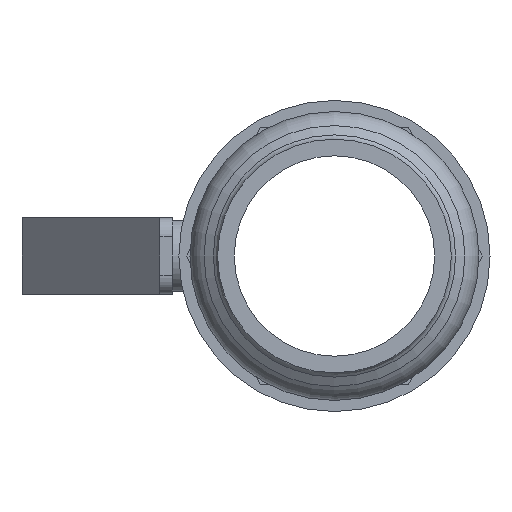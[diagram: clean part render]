
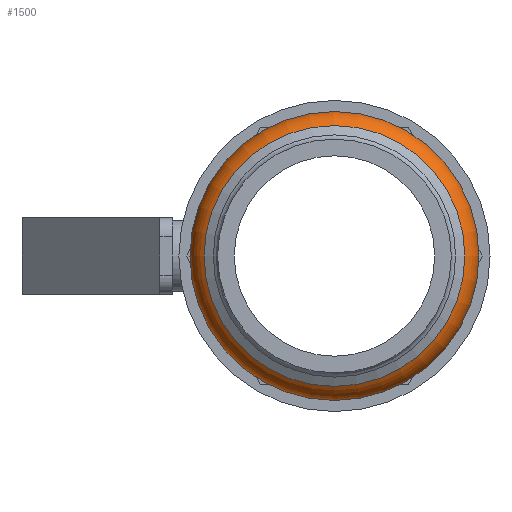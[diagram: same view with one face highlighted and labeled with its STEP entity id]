
A CAD part, left-side view. The second image highlights one B-rep face of the part: STEP entity #1500.
In plain terms, the highlighted toroidal (fillet/blend) face has major radius 19.101 mm and minor radius 4.978 mm.
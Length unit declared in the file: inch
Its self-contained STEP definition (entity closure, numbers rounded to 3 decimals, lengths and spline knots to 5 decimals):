
#322=FACE_OUTER_BOUND('',#396,.T.);
#396=EDGE_LOOP('',(#1131,#1132,#1133,#1134,#1135,#1136,#1137,#1138));
#531=CIRCLE('',#1672,0.85579);
#532=CIRCLE('',#1673,0.85579);
#533=CIRCLE('',#1674,0.85579);
#534=CIRCLE('',#1676,0.85579);
#535=CIRCLE('',#1677,0.85579);
#536=CIRCLE('',#1678,0.85579);
#537=CIRCLE('',#1679,0.196);
#647=VERTEX_POINT('',#2480);
#648=VERTEX_POINT('',#2481);
#649=VERTEX_POINT('',#2483);
#650=VERTEX_POINT('',#2488);
#651=VERTEX_POINT('',#2489);
#652=VERTEX_POINT('',#2491);
#824=EDGE_CURVE('',#647,#648,#531,.T.);
#825=EDGE_CURVE('',#649,#647,#532,.T.);
#827=EDGE_CURVE('',#648,#649,#533,.T.);
#828=EDGE_CURVE('',#650,#651,#534,.T.);
#829=EDGE_CURVE('',#652,#650,#535,.T.);
#830=EDGE_CURVE('',#651,#652,#536,.T.);
#831=EDGE_CURVE('',#651,#648,#537,.T.);
#1131=ORIENTED_EDGE('',*,*,#828,.F.);
#1132=ORIENTED_EDGE('',*,*,#829,.F.);
#1133=ORIENTED_EDGE('',*,*,#830,.F.);
#1134=ORIENTED_EDGE('',*,*,#831,.T.);
#1135=ORIENTED_EDGE('',*,*,#827,.T.);
#1136=ORIENTED_EDGE('',*,*,#825,.T.);
#1137=ORIENTED_EDGE('',*,*,#824,.T.);
#1138=ORIENTED_EDGE('',*,*,#831,.F.);
#1400=TOROIDAL_SURFACE('',#1675,0.752,0.196);
#1500=ADVANCED_FACE('',(#322),#1400,.T.);
#1672=AXIS2_PLACEMENT_3D('',#2482,#2000,#2001);
#1673=AXIS2_PLACEMENT_3D('',#2484,#2002,#2003);
#1674=AXIS2_PLACEMENT_3D('',#2486,#2005,#2006);
#1675=AXIS2_PLACEMENT_3D('',#2487,#2007,#2008);
#1676=AXIS2_PLACEMENT_3D('',#2490,#2009,#2010);
#1677=AXIS2_PLACEMENT_3D('',#2492,#2011,#2012);
#1678=AXIS2_PLACEMENT_3D('',#2493,#2013,#2014);
#1679=AXIS2_PLACEMENT_3D('',#2494,#2015,#2016);
#2000=DIRECTION('center_axis',(1.,0.,0.));
#2001=DIRECTION('ref_axis',(0.,0.,-1.));
#2002=DIRECTION('center_axis',(1.,0.,0.));
#2003=DIRECTION('ref_axis',(0.,0.,-1.));
#2005=DIRECTION('center_axis',(1.,0.,0.));
#2006=DIRECTION('ref_axis',(0.,0.,-1.));
#2007=DIRECTION('center_axis',(1.,0.,0.));
#2008=DIRECTION('ref_axis',(0.,0.,-1.));
#2009=DIRECTION('center_axis',(1.,0.,0.));
#2010=DIRECTION('ref_axis',(0.,0.,-1.));
#2011=DIRECTION('center_axis',(1.,0.,0.));
#2012=DIRECTION('ref_axis',(0.,0.,-1.));
#2013=DIRECTION('center_axis',(1.,0.,0.));
#2014=DIRECTION('ref_axis',(0.,0.,-1.));
#2015=DIRECTION('center_axis',(0.,-1.,0.));
#2016=DIRECTION('ref_axis',(0.,0.,1.));
#2480=CARTESIAN_POINT('',(-4.73727,0.85579,0.));
#2481=CARTESIAN_POINT('',(-4.73727,0.,0.85579));
#2482=CARTESIAN_POINT('Origin',(-4.73727,0.,
0.));
#2483=CARTESIAN_POINT('',(-4.73727,-0.85579,0.));
#2484=CARTESIAN_POINT('Origin',(-4.73727,0.,
0.));
#2486=CARTESIAN_POINT('Origin',(-4.73727,0.,
0.));
#2487=CARTESIAN_POINT('Origin',(-4.571,0.,0.));
#2488=CARTESIAN_POINT('',(-4.40473,0.85579,0.));
#2489=CARTESIAN_POINT('',(-4.40473,0.,0.85579));
#2490=CARTESIAN_POINT('Origin',(-4.40473,0.,
0.));
#2491=CARTESIAN_POINT('',(-4.40473,-0.85579,0.));
#2492=CARTESIAN_POINT('Origin',(-4.40473,0.,
0.));
#2493=CARTESIAN_POINT('Origin',(-4.40473,0.,
0.));
#2494=CARTESIAN_POINT('Origin',(-4.571,0.,0.752));
